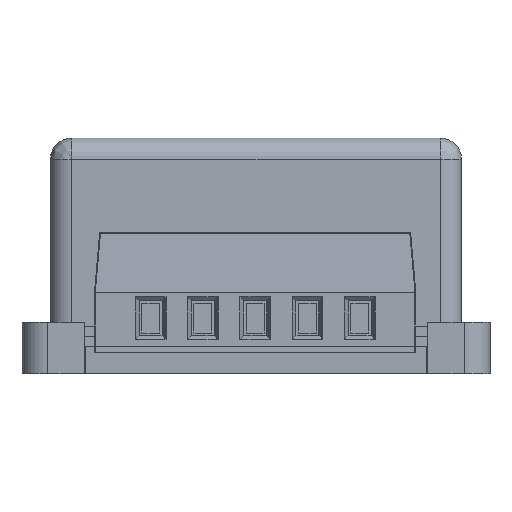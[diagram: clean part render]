
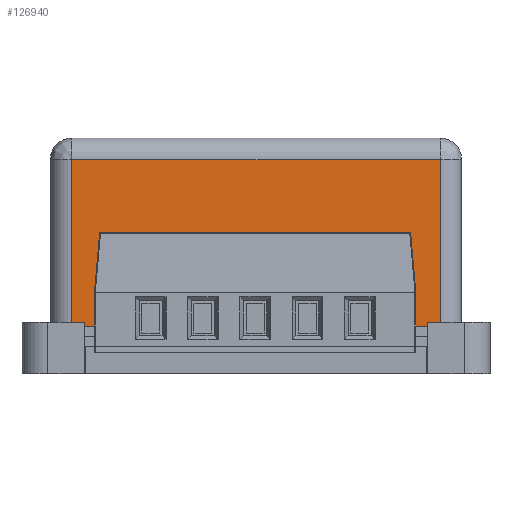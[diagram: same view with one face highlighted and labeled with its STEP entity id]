
A CAD part, front view. The second image highlights one B-rep face of the part: STEP entity #126940.
In plain terms, the highlighted planar face has unit normal (0, -1, 0) as drawn and (1, 0, 0) by its records, which use the part's own axes.
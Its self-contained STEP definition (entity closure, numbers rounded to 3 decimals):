
#14990 = DIRECTION ( 'NONE',  ( -1., 0., 0. ) ) ;
#20411 = EDGE_CURVE ( 'NONE', #70286, #30408, #32240, .T. ) ;
#23653 = DIRECTION ( 'NONE',  ( 0., 1., 0. ) ) ;
#30011 = EDGE_CURVE ( 'NONE', #30408, #157461, #84267, .T. ) ;
#30408 = VERTEX_POINT ( 'NONE', #137644 ) ;
#32240 = LINE ( 'NONE', #161717, #84824 ) ;
#35672 = EDGE_LOOP ( 'NONE', ( #152832, #143573, #121099, #72945 ) ) ;
#36881 = EDGE_CURVE ( 'NONE', #157461, #47715, #64879, .T. ) ;
#43611 = CARTESIAN_POINT ( 'NONE',  ( 35., 21.5, 22. ) ) ;
#45920 = AXIS2_PLACEMENT_3D ( 'NONE', #92569, #14990, #105602 ) ;
#47715 = VERTEX_POINT ( 'NONE', #59069 ) ;
#52325 = PLANE ( 'NONE',  #45920 ) ;
#57007 = CARTESIAN_POINT ( 'NONE',  ( 35., -21.5, 0. ) ) ;
#59069 = CARTESIAN_POINT ( 'NONE',  ( 35., 21.5, 0. ) ) ;
#64879 = LINE ( 'NONE', #43611, #133796 ) ;
#69791 = EDGE_CURVE ( 'NONE', #70286, #47715, #103487, .T. ) ;
#70286 = VERTEX_POINT ( 'NONE', #57007 ) ;
#72134 = FACE_OUTER_BOUND ( 'NONE', #35672, .T. ) ;
#72945 = ORIENTED_EDGE ( 'NONE', *, *, #30011, .F. ) ;
#80201 = VECTOR ( 'NONE', #23653, 1000. ) ;
#84267 = LINE ( 'NONE', #114347, #80201 ) ;
#84824 = VECTOR ( 'NONE', #135749, 1000. ) ;
#90086 = CARTESIAN_POINT ( 'NONE',  ( 35., 21.5, 19.5 ) ) ;
#92569 = CARTESIAN_POINT ( 'NONE',  ( 35., 24., 22. ) ) ;
#103487 = LINE ( 'NONE', #159127, #138051 ) ;
#105602 = DIRECTION ( 'NONE',  ( 0., -1., 0. ) ) ;
#114347 = CARTESIAN_POINT ( 'NONE',  ( 35., 24., 19.5 ) ) ;
#121099 = ORIENTED_EDGE ( 'NONE', *, *, #36881, .F. ) ;
#124590 = DIRECTION ( 'NONE',  ( 0., 1., 0. ) ) ;
#126940 = ADVANCED_FACE ( 'NONE', ( #72134 ), #52325, .F. ) ;
#133796 = VECTOR ( 'NONE', #134214, 1000. ) ;
#134214 = DIRECTION ( 'NONE',  ( 0., 0., -1. ) ) ;
#135749 = DIRECTION ( 'NONE',  ( 0., 0., 1. ) ) ;
#137644 = CARTESIAN_POINT ( 'NONE',  ( 35., -21.5, 19.5 ) ) ;
#138051 = VECTOR ( 'NONE', #124590, 1000. ) ;
#143573 = ORIENTED_EDGE ( 'NONE', *, *, #69791, .T. ) ;
#152832 = ORIENTED_EDGE ( 'NONE', *, *, #20411, .F. ) ;
#157461 = VERTEX_POINT ( 'NONE', #90086 ) ;
#159127 = CARTESIAN_POINT ( 'NONE',  ( 35., -24., 0. ) ) ;
#161717 = CARTESIAN_POINT ( 'NONE',  ( 35., -21.5, 22. ) ) ;
